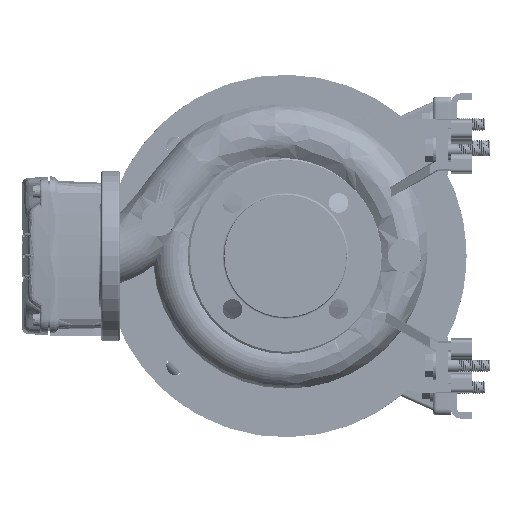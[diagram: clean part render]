
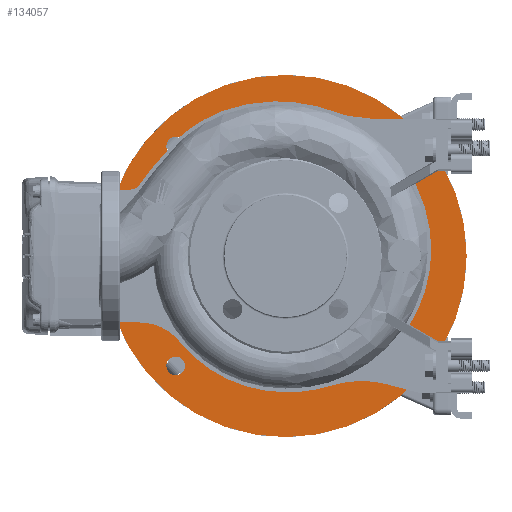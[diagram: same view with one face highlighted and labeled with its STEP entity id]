
A CAD part, left-side view. The second image highlights one B-rep face of the part: STEP entity #134057.
In plain terms, the highlighted planar face has unit normal (-1, 0, 0).
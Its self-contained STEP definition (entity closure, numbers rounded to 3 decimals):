
#116 = ORIENTED_EDGE ( 'NONE', *, *, #70949, .T. ) ;
#2092 = CARTESIAN_POINT ( 'NONE',  ( 202.823, 106.756, 226.966 ) ) ;
#6887 = CARTESIAN_POINT ( 'NONE',  ( 202.823, 212.821, 158.033 ) ) ;
#7202 = CARTESIAN_POINT ( 'NONE',  ( 202.823, 318.888, 226.967 ) ) ;
#8446 = CIRCLE ( 'NONE', #131149, 127.679 ) ;
#11245 = DIRECTION ( 'NONE',  ( 0., 0., -1. ) ) ;
#12093 = DIRECTION ( 'NONE',  ( 0., 0., 1. ) ) ;
#12708 = EDGE_LOOP ( 'NONE', ( #86410, #188089, #17155, #189159 ) ) ;
#13865 = EDGE_CURVE ( 'NONE', #217236, #130007, #16591, .T. ) ;
#16591 = CIRCLE ( 'NONE', #125190, 175. ) ;
#17155 = ORIENTED_EDGE ( 'NONE', *, *, #144364, .T. ) ;
#17289 = CARTESIAN_POINT ( 'NONE',  ( 202.823, 86.231, 316.389 ) ) ;
#18575 = DIRECTION ( 'NONE',  ( 0., 0., 1. ) ) ;
#18619 = CARTESIAN_POINT ( 'NONE',  ( 202.823, 212.821, 460.712 ) ) ;
#19652 = DIRECTION ( 'NONE',  ( 1., 0., 0. ) ) ;
#20142 = VERTEX_POINT ( 'NONE', #18619 ) ;
#20448 = CARTESIAN_POINT ( 'NONE',  ( 202.823, 318.888, 235.967 ) ) ;
#20518 = ORIENTED_EDGE ( 'NONE', *, *, #45162, .T. ) ;
#21197 = AXIS2_PLACEMENT_3D ( 'NONE', #126271, #175690, #12093 ) ;
#22618 = DIRECTION ( 'NONE',  ( 1., 0., 0. ) ) ;
#24148 = DIRECTION ( 'NONE',  ( 1., 0., 0. ) ) ;
#25528 = CARTESIAN_POINT ( 'NONE',  ( 202.823, 212.821, 333.033 ) ) ;
#26873 = EDGE_CURVE ( 'NONE', #42976, #110877, #166022, .T. ) ;
#28466 = EDGE_LOOP ( 'NONE', ( #131407, #177580 ) ) ;
#28561 = CARTESIAN_POINT ( 'NONE',  ( 202.823, 318.887, 439.099 ) ) ;
#29464 = AXIS2_PLACEMENT_3D ( 'NONE', #7202, #161909, #193745 ) ;
#34766 = CARTESIAN_POINT ( 'NONE',  ( 202.823, 106.755, 448.098 ) ) ;
#37562 = CARTESIAN_POINT ( 'NONE',  ( 202.823, 86.231, 349.677 ) ) ;
#38107 = EDGE_LOOP ( 'NONE', ( #127790, #80616 ) ) ;
#39031 = CARTESIAN_POINT ( 'NONE',  ( 202.823, 212.821, 205.353 ) ) ;
#40201 = DIRECTION ( 'NONE',  ( 0., 0., -1. ) ) ;
#41795 = FACE_BOUND ( 'NONE', #12708, .T. ) ;
#42456 = DIRECTION ( 'NONE',  ( 1., 0., 0. ) ) ;
#42976 = VERTEX_POINT ( 'NONE', #37562 ) ;
#43774 = CARTESIAN_POINT ( 'NONE',  ( 202.823, 106.755, 439.098 ) ) ;
#45051 = DIRECTION ( 'NONE',  ( -1., 0., 0. ) ) ;
#45162 = EDGE_CURVE ( 'NONE', #136110, #166582, #158708, .T. ) ;
#46269 = CARTESIAN_POINT ( 'NONE',  ( 202.823, 212.821, 333.033 ) ) ;
#49364 = CARTESIAN_POINT ( 'NONE',  ( 202.823, 318.887, 448.099 ) ) ;
#50907 = EDGE_CURVE ( 'NONE', #121415, #20142, #159730, .T. ) ;
#54181 = ORIENTED_EDGE ( 'NONE', *, *, #130624, .T. ) ;
#54828 = CARTESIAN_POINT ( 'NONE',  ( 202.823, 106.755, 439.098 ) ) ;
#58270 = FACE_BOUND ( 'NONE', #211987, .T. ) ;
#59126 = AXIS2_PLACEMENT_3D ( 'NONE', #43774, #193030, #77735 ) ;
#61847 = CARTESIAN_POINT ( 'NONE',  ( 202.823, 106.756, 217.966 ) ) ;
#62371 = VERTEX_POINT ( 'NONE', #34766 ) ;
#65492 = AXIS2_PLACEMENT_3D ( 'NONE', #25528, #111166, #11245 ) ;
#65845 = AXIS2_PLACEMENT_3D ( 'NONE', #2092, #19652, #190862 ) ;
#68135 = CARTESIAN_POINT ( 'NONE',  ( 202.823, 102.821, 333.033 ) ) ;
#70949 = EDGE_CURVE ( 'NONE', #130043, #153669, #112437, .T. ) ;
#72771 = CIRCLE ( 'NONE', #90304, 9. ) ;
#74689 = FACE_BOUND ( 'NONE', #38107, .T. ) ;
#75574 = VERTEX_POINT ( 'NONE', #20448 ) ;
#75693 = ORIENTED_EDGE ( 'NONE', *, *, #132334, .T. ) ;
#77537 = CIRCLE ( 'NONE', #161400, 127.679 ) ;
#77585 = VERTEX_POINT ( 'NONE', #197378 ) ;
#77735 = DIRECTION ( 'NONE',  ( 0., 0., 1. ) ) ;
#80233 = DIRECTION ( 'NONE',  ( 0., 0., -1. ) ) ;
#80616 = ORIENTED_EDGE ( 'NONE', *, *, #155064, .T. ) ;
#81155 = PLANE ( 'NONE',  #177939 ) ;
#81577 = AXIS2_PLACEMENT_3D ( 'NONE', #128043, #42456, #144479 ) ;
#82397 = DIRECTION ( 'NONE',  ( 1., 0., 0. ) ) ;
#83993 = EDGE_CURVE ( 'NONE', #130007, #217236, #212607, .T. ) ;
#85516 = DIRECTION ( 'NONE',  ( 1., 0., 0. ) ) ;
#86410 = ORIENTED_EDGE ( 'NONE', *, *, #159505, .T. ) ;
#90303 = CARTESIAN_POINT ( 'NONE',  ( 202.823, 318.887, 430.099 ) ) ;
#90304 = AXIS2_PLACEMENT_3D ( 'NONE', #28561, #215080, #95509 ) ;
#91938 = DIRECTION ( 'NONE',  ( 1., 0., 0. ) ) ;
#95509 = DIRECTION ( 'NONE',  ( 0., 0., 1. ) ) ;
#100943 = CIRCLE ( 'NONE', #65845, 9. ) ;
#100951 = DIRECTION ( 'NONE',  ( 1., 0., 0. ) ) ;
#103279 = AXIS2_PLACEMENT_3D ( 'NONE', #54828, #85516, #217272 ) ;
#105155 = DIRECTION ( 'NONE',  ( 1., 0., 0. ) ) ;
#107198 = ORIENTED_EDGE ( 'NONE', *, *, #134102, .T. ) ;
#107618 = DIRECTION ( 'NONE',  ( 0., 0., 1. ) ) ;
#108165 = CIRCLE ( 'NONE', #59126, 9. ) ;
#108733 = FACE_OUTER_BOUND ( 'NONE', #28466, .T. ) ;
#110201 = VERTEX_POINT ( 'NONE', #197232 ) ;
#110877 = VERTEX_POINT ( 'NONE', #17289 ) ;
#111166 = DIRECTION ( 'NONE',  ( 1., 0., 0. ) ) ;
#112437 = CIRCLE ( 'NONE', #21197, 9. ) ;
#113946 = CIRCLE ( 'NONE', #141933, 9. ) ;
#121415 = VERTEX_POINT ( 'NONE', #39031 ) ;
#122668 = DIRECTION ( 'NONE',  ( 0., 0., -1. ) ) ;
#123036 = FACE_BOUND ( 'NONE', #175480, .T. ) ;
#123609 = CARTESIAN_POINT ( 'NONE',  ( 202.823, 212.821, 333.033 ) ) ;
#125190 = AXIS2_PLACEMENT_3D ( 'NONE', #138047, #105155, #122668 ) ;
#126271 = CARTESIAN_POINT ( 'NONE',  ( 202.823, 318.887, 439.099 ) ) ;
#127790 = ORIENTED_EDGE ( 'NONE', *, *, #143327, .T. ) ;
#128043 = CARTESIAN_POINT ( 'NONE',  ( 202.823, 106.756, 226.966 ) ) ;
#130007 = VERTEX_POINT ( 'NONE', #6887 ) ;
#130043 = VERTEX_POINT ( 'NONE', #90303 ) ;
#130624 = EDGE_CURVE ( 'NONE', #75574, #110201, #194295, .T. ) ;
#131149 = AXIS2_PLACEMENT_3D ( 'NONE', #141349, #91938, #158915 ) ;
#131407 = ORIENTED_EDGE ( 'NONE', *, *, #83993, .F. ) ;
#132334 = EDGE_CURVE ( 'NONE', #110201, #75574, #113946, .T. ) ;
#134057 = ADVANCED_FACE ( 'NONE', ( #58270, #74689, #208621, #123036, #41795, #108733 ), #81155, .T. ) ;
#134102 = EDGE_CURVE ( 'NONE', #153669, #130043, #72771, .T. ) ;
#136110 = VERTEX_POINT ( 'NONE', #61847 ) ;
#138047 = CARTESIAN_POINT ( 'NONE',  ( 202.823, 212.821, 333.033 ) ) ;
#141318 = CIRCLE ( 'NONE', #103279, 9. ) ;
#141349 = CARTESIAN_POINT ( 'NONE',  ( 202.823, 212.821, 333.033 ) ) ;
#141933 = AXIS2_PLACEMENT_3D ( 'NONE', #168972, #100951, #18575 ) ;
#143327 = EDGE_CURVE ( 'NONE', #77585, #62371, #141318, .T. ) ;
#144364 = EDGE_CURVE ( 'NONE', #20142, #42976, #8446, .T. ) ;
#144479 = DIRECTION ( 'NONE',  ( 0., 0., 1. ) ) ;
#147566 = CARTESIAN_POINT ( 'NONE',  ( 202.823, 106.756, 235.966 ) ) ;
#153669 = VERTEX_POINT ( 'NONE', #49364 ) ;
#153844 = EDGE_CURVE ( 'NONE', #166582, #136110, #100943, .T. ) ;
#155064 = EDGE_CURVE ( 'NONE', #62371, #77585, #108165, .T. ) ;
#157031 = CARTESIAN_POINT ( 'NONE',  ( 202.823, 212.821, 508.033 ) ) ;
#158708 = CIRCLE ( 'NONE', #81577, 9. ) ;
#158915 = DIRECTION ( 'NONE',  ( 0., 0., -1. ) ) ;
#159505 = EDGE_CURVE ( 'NONE', #110877, #121415, #77537, .T. ) ;
#159730 = CIRCLE ( 'NONE', #212351, 127.679 ) ;
#161400 = AXIS2_PLACEMENT_3D ( 'NONE', #123609, #22618, #40201 ) ;
#161909 = DIRECTION ( 'NONE',  ( 1., 0., 0. ) ) ;
#162483 = DIRECTION ( 'NONE',  ( 0., 0., 1. ) ) ;
#166022 = CIRCLE ( 'NONE', #169445, 23.5 ) ;
#166582 = VERTEX_POINT ( 'NONE', #147566 ) ;
#168972 = CARTESIAN_POINT ( 'NONE',  ( 202.823, 318.888, 226.967 ) ) ;
#169445 = AXIS2_PLACEMENT_3D ( 'NONE', #68135, #24148, #107618 ) ;
#175480 = EDGE_LOOP ( 'NONE', ( #75693, #54181 ) ) ;
#175690 = DIRECTION ( 'NONE',  ( 1., 0., 0. ) ) ;
#177580 = ORIENTED_EDGE ( 'NONE', *, *, #13865, .F. ) ;
#177939 = AXIS2_PLACEMENT_3D ( 'NONE', #178953, #45051, #162483 ) ;
#178953 = CARTESIAN_POINT ( 'NONE',  ( 202.823, 212.821, 333.033 ) ) ;
#188089 = ORIENTED_EDGE ( 'NONE', *, *, #50907, .T. ) ;
#189159 = ORIENTED_EDGE ( 'NONE', *, *, #26873, .T. ) ;
#190862 = DIRECTION ( 'NONE',  ( 0., 0., 1. ) ) ;
#193030 = DIRECTION ( 'NONE',  ( 1., 0., 0. ) ) ;
#193745 = DIRECTION ( 'NONE',  ( 0., 0., 1. ) ) ;
#194295 = CIRCLE ( 'NONE', #29464, 9. ) ;
#197232 = CARTESIAN_POINT ( 'NONE',  ( 202.823, 318.888, 217.967 ) ) ;
#197378 = CARTESIAN_POINT ( 'NONE',  ( 202.823, 106.755, 430.098 ) ) ;
#200005 = EDGE_LOOP ( 'NONE', ( #116, #107198 ) ) ;
#208621 = FACE_BOUND ( 'NONE', #200005, .T. ) ;
#211561 = ORIENTED_EDGE ( 'NONE', *, *, #153844, .T. ) ;
#211987 = EDGE_LOOP ( 'NONE', ( #20518, #211561 ) ) ;
#212351 = AXIS2_PLACEMENT_3D ( 'NONE', #46269, #82397, #80233 ) ;
#212607 = CIRCLE ( 'NONE', #65492, 175. ) ;
#215080 = DIRECTION ( 'NONE',  ( 1., 0., 0. ) ) ;
#217236 = VERTEX_POINT ( 'NONE', #157031 ) ;
#217272 = DIRECTION ( 'NONE',  ( 0., 0., 1. ) ) ;
